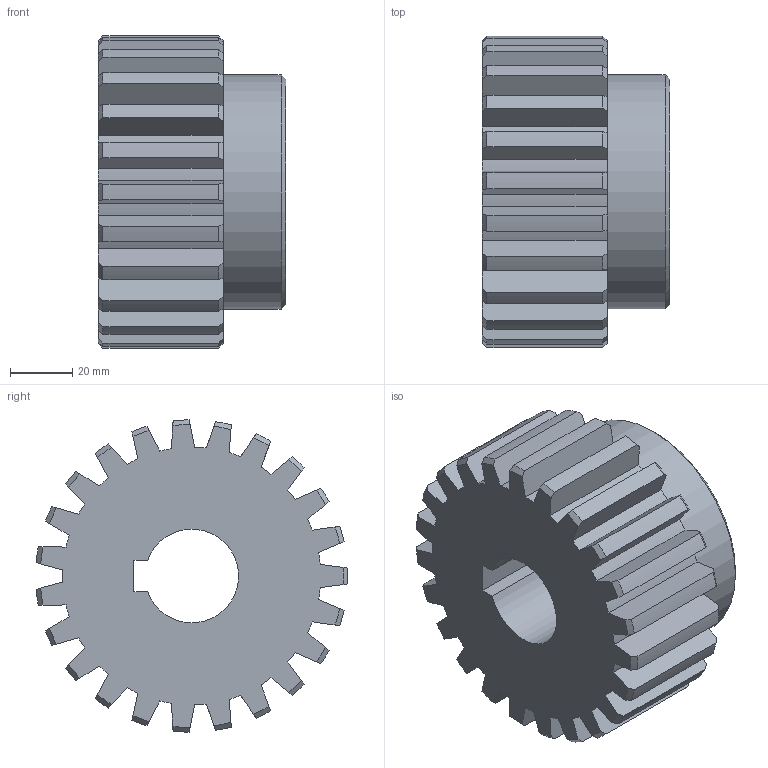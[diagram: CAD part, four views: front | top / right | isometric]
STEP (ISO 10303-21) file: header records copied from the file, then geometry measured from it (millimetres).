
FILE_DESCRIPTION(/* description */ (''),/* implementation_level */ '2;1');
FILE_NAME(/* name */ '\\JOINapp01\Profiles\martins\Desktop\ENGRENAGEM\ENGRENAGEM CORRETA\ENG DENTE RETO M4 Z23.step',/* time_stamp */ '2018-10-24T13:52:46-03:00',/* author */ ('martins'),/* organization */ (''),/* preprocessor_version */ 'ST-DEVELOPER v16.1',/* originating_system */ 'Autodesk Inventor 2016',/* authorisation */ '');
FILE_SCHEMA (('AUTOMOTIVE_DESIGN { 1 0 10303 214 3 1 1 }'));
Length unit declared in the file: millimetre
Products named in the file (1): ENG DENTE RETO M4 Z23
Bounding box: 60 x 99.81 x 99.99 mm (x, y, z)
Volume: 307679.9 mm3; surface area: 46683.1 mm2
Topology: 1 solids, 1 shells, 147 faces, 431 edges, 287 vertices
Faces by surface type: plane 52, cylinder 48, cone 47
Full cylindrical faces by diameter (mm): 75 x1
Entity records: 4846 total; most frequent: CARTESIAN_POINT 1048, ORIENTED_EDGE 858, DIRECTION 776, EDGE_CURVE 429, AXIS2_PLACEMENT_3D 291, VERTEX_POINT 287, LINE 194, VECTOR 194
